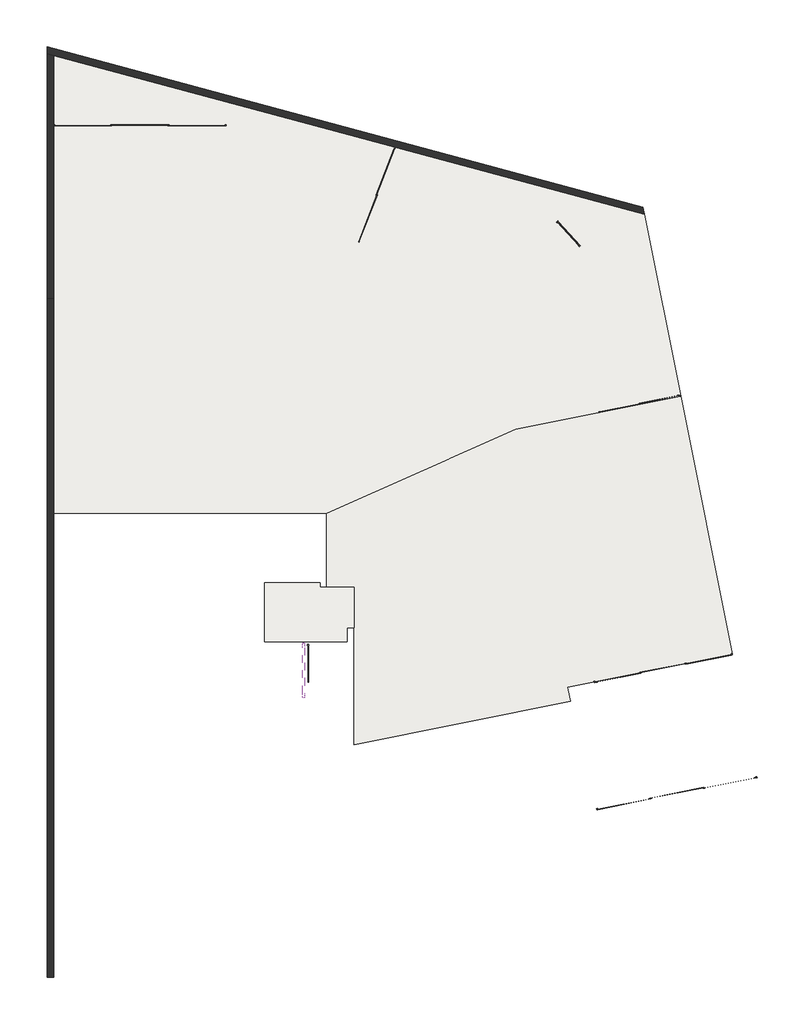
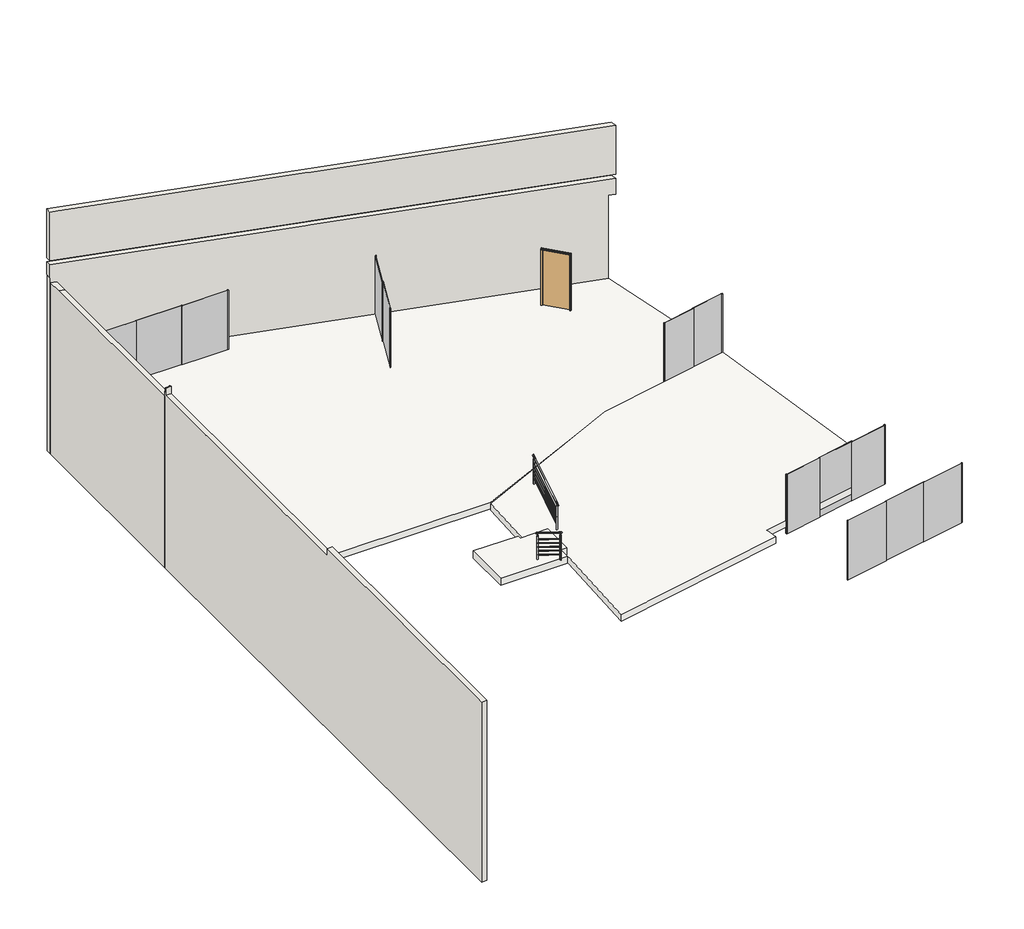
# One storey, incomplete: 5 furniture elements, 3 slabs, 3 walls, 2 railings, 1 door.
"""IFC4 building model written with IfcOpenShell, lengths in millimetres."""

from ifc_helpers import new_model, si_unit, frame, origin, place, context, project, spatial, polyline, outline, extrude, faceted_brep, transform, mapped, element, save
from components import door_b94a3739, furniture_f1b7d8eb, furniture_cfb692ec, furniture_4dd8e650, furniture_5b101463, furniture_70a1527a, railing_a08ae18a, railing_a6b679a9

model = new_model("IFC4")

# Units and contexts
model_context = context("Model", 3, world=origin())
ifc_project = project(units=[si_unit("LENGTHUNIT", "METRE", prefix="MILLI")], contexts=[model_context])

# Site, building, storey
site = spatial("IfcSite", under=ifc_project)
building = spatial("IfcBuilding", under=site)
storey = spatial("IfcBuildingStorey", under=building, Name="SÓTANO 1", Elevation=-3500.0)

# Door
placement = place(None, origin())
door_shape = door_b94a3739(model_context)
element("IfcDoor", 1, ObjectType="Puerta Metalica-lisa : PH2-Puerta Metalica lisa simple", at=placement, inside=storey, context=model_context, shape_type="MappedRepresentation", body=[
    mapped(door_shape, transform((49477.9969526, 40222.2993983, -3500.0), x_axis=(-0.6739713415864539, 0.7387574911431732, 0.0), y_axis=(-0.7387574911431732, -0.6739713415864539, 0.0), z_axis=(0.0, 0.0, 1.0))),
])

# Furniture
furniture_shape = furniture_f1b7d8eb(model_context)
element("IfcFurniture", 2, ObjectType="Puerta Closet corre 3 hojas : Puerta corrdiza 3 hojas PCLE-01", at=placement, inside=storey, context=model_context, shape_type="MappedRepresentation", body=[
    mapped(furniture_shape, transform((35474.5059119, 43346.4541486, -3500.0), x_axis=(1.0, 0.0, 0.0), y_axis=(0.0, 1.0, 0.0), z_axis=(0.0, 0.0, 1.0))),
])
furniture_2_shape = furniture_cfb692ec(model_context)
element("IfcFurniture", 3, ObjectType="Puerta Closet corre 3 hojas : Puerta corrdiza 3 hojas PCLE-04", at=placement, inside=storey, context=model_context, shape_type="MappedRepresentation", body=[
    mapped(furniture_2_shape, transform((51525.4137061, 27065.8247828, -4472.6920924), x_axis=(0.9805261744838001, 0.19638844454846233, 0.0), y_axis=(-0.19638844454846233, 0.9805261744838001, 0.0), z_axis=(0.0, 0.0, 1.0))),
])
furniture_3_shape = furniture_4dd8e650(model_context)
element("IfcFurniture", 4, ObjectType="Puerta Closet corre 3 hojas : Puerta corrdiza 3 hojas PCLE-05", at=placement, inside=storey, context=model_context, shape_type="MappedRepresentation", body=[
    mapped(furniture_3_shape, transform((51599.0261829, 23286.6871558, -4000.0), x_axis=(0.9805261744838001, 0.19638844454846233, 0.0), y_axis=(-0.19638844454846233, 0.9805261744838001, 0.0), z_axis=(0.0, 0.0, 1.0))),
])
furniture_4_shape = furniture_5b101463(model_context)
element("IfcFurniture", 5, ObjectType="Puerta Closet corre 2 hojas : Puerta corrdiza 2 hojas PCLE-02", at=placement, inside=storey, context=model_context, shape_type="MappedRepresentation", body=[
    mapped(furniture_4_shape, transform((44066.2505048, 41850.3583387, -3500.0), x_axis=(0.36197507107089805, 0.9321877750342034, 0.0), y_axis=(-0.9321877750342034, 0.36197507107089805, 0.0), z_axis=(0.0, 0.0, 1.0))),
])
furniture_5_shape = furniture_70a1527a(model_context)
element("IfcFurniture", 6, ObjectType="Puerta Closet corre 2 hojas : Puerta corrdiza 2 hojas PCLE-03", at=placement, inside=storey, context=model_context, shape_type="MappedRepresentation", body=[
    mapped(furniture_5_shape, transform((52142.5706861, 35186.7782889, -3500.0), x_axis=(0.98052617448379, 0.1963884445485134, 0.0), y_axis=(-0.1963884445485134, 0.98052617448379, 0.0), z_axis=(0.0, 0.0, 1.0))),
])

# Railings
railing_shape = railing_a08ae18a(model_context)
element("IfcRailing", 7, ObjectType="Barandal escalera", at=placement, inside=storey, context=model_context, shape_type="MappedRepresentation", body=[
    mapped(railing_shape, transform((0.0, 0.0, 0.0), x_axis=(1.0, 0.0, 0.0), y_axis=(0.0, 1.0, 0.0), z_axis=(0.0, 0.0, 1.0))),
])
railing_2_shape = railing_a6b679a9(model_context)
element("IfcRailing", 8, ObjectType="Barandal escalera", at=placement, inside=storey, context=model_context, shape_type="MappedRepresentation", body=[
    mapped(railing_2_shape, transform((0.0, 0.0, 0.0), x_axis=(1.0, 0.0, 0.0), y_axis=(0.0, 1.0, 0.0), z_axis=(0.0, 0.0, 1.0))),
])

# Slabs
element("IfcSlab", 9, ObjectType="Losa sótano", at=placement, inside=storey, context=model_context, shape_type="SweptSolid", body=[
    extrude(outline(polyline([(34183.8589874, 31918.9733508), (34183.8589874, 45520.6970613), (51731.7881803, 40802.0933929), (52813.3298443, 35402.1834706), (47910.6989719, 34420.2412478), (42279.5059119, 31918.9733508), (34183.8589874, 31918.9733508)])), frame((0.0, 0.0, -3750.0), z_axis=(0.0, 0.0, 1.0), x_axis=(1.0, 0.0, 0.0)), (0.0, 0.0, 1.0), 250.0),
])
element("IfcSlab", 10, ObjectType="Losa sótano en rampa", at=placement, inside=storey, context=model_context, shape_type="Brep", body=[
    faceted_brep([(54349.3007676, 27733.4038894, -4223.208373), (49446.6698952, 26751.4616666, -4223.208373), (49530.0749438, 26335.0378115, -4250.5162806), (43109.5059119, 25049.0695242, -4250.5162806), (43109.5059119, 29724.010184, -3955.7706944), (42279.5059119, 29724.010184, -3945.2896143), (42279.5059119, 31919.4931914, -3806.8688356), (47910.3701921, 34420.7046322, -3720.2779647), (52813.2279327, 35402.6922941, -3720.2779647), (54349.3007676, 27733.4038894, -3972.6920924), (52813.2279327, 35402.6922941, -3469.7616841), (47910.3701921, 34420.7046322, -3469.7616841), (42279.5059119, 31919.4931914, -3556.352555), (42279.5059119, 29724.010184, -3694.7733336), (43109.5059119, 29724.010184, -3705.2544137), (43109.5059119, 25049.0695242, -4000.0), (49530.0749438, 26335.0378115, -4000.0), (49446.6698952, 26751.4616666, -3972.6920924)], [[[0, 1, 2, 3, 4, 5, 6, 7, 8]], [[9, 10, 11, 12, 13, 14, 15, 16, 17]], [[0, 8, 10, 9]], [[3, 2, 16, 15]], [[4, 3, 15, 14]], [[5, 4, 14, 13]], [[6, 5, 13, 12]], [[7, 6, 12, 11]], [[8, 7, 11, 10]], [[1, 0, 9, 17]], [[2, 1, 17, 16]]]),
])
element("IfcSlab", 11, ObjectType="Suelo-losa 25cms+ceramica 2 HALL SOTANO 1", at=placement, inside=storey, context=model_context, shape_type="SweptSolid", body=[
    extrude(outline(polyline([(40444.5059119, 29855.2733508), (42089.5059119, 29855.2733508), (42089.5059119, 29724.010184), (43109.5059119, 29724.010184), (43109.5059119, 28524.010184), (42899.5059119, 28524.010184), (42899.5059119, 28111.0432167), (40444.5059119, 28111.0432167), (40444.5059119, 29855.2733508)])), frame((0.0, 0.0, -3780.0), z_axis=(0.0, 0.0, 1.0), x_axis=(1.0, 0.0, 0.0)), (0.0, 0.0, 1.0), 280.0),
])

# Walls
element("IfcWall", 12, ObjectType="Muro Contención - 20 cm", at=placement, inside=storey, context=model_context, shape_type="Brep", body=[
    faceted_brep([(34183.8589874, 18137.9058422, -7000.0), (34183.8589874, 22602.4464142, -7000.0), (34183.8589874, 22782.4464142, -7000.0), (34183.8589874, 38291.1390812, -7000.0), (34183.8589874, 38291.1390812, -350.0), (34183.8589874, 38291.1390812, 0.0), (34183.8589874, 38240.4026232, 0.0), (34183.8589874, 38240.4026232, -280.0), (34183.8589874, 27969.7432167, -280.0), (34183.8589874, 27969.7432167, 0.0), (34183.8589874, 18137.9058422, 0.0), (33983.8589874, 38291.1390812, -7000.0), (33983.8589874, 18137.9058422, -7000.0), (33983.8589874, 18137.9058422, 0.0), (33983.8589874, 27969.7432167, 0.0), (33983.8589874, 27969.7432167, -280.0), (33983.8589874, 38240.4026232, -280.0), (33983.8589874, 38240.4026232, 0.0), (33983.8589874, 38260.4026232, 0.0), (33983.8589874, 38260.4026232, -150.0), (33983.8589874, 38291.1390812, -150.0), (33983.8589874, 38291.1390812, -350.0), (34143.8589874, 38291.1390812, -150.0), (34143.8589874, 38291.1390812, 0.0), (34143.8589874, 38260.4026232, 0.0), (34143.8589874, 38260.4026232, -150.0)], [[[0, 1, 2, 3, 4, 5, 6, 7, 8, 9, 10]], [[11, 12, 13, 14, 15, 16, 17, 18, 19, 20, 21]], [[3, 2, 1, 0, 12, 11]], [[5, 4, 3, 11, 21, 20, 22, 23]], [[13, 10, 9, 14]], [[5, 23, 24, 18, 17, 6]], [[10, 13, 12, 0]], [[22, 25, 24, 23]], [[25, 22, 20, 19]], [[15, 8, 7, 16]], [[16, 7, 6, 17]], [[8, 15, 14, 9]], [[24, 25, 19, 18]]]),
])
element("IfcWall", 13, ObjectType="Muro Contención - 20 cm", at=placement, inside=storey, context=model_context, shape_type="Brep", body=[
    faceted_brep([(51687.9462691, 41020.9868296, -7000.0), (33983.8589874, 45781.5811011, -7000.0), (33983.8589874, 45781.5811011, -150.0), (33963.8589874, 45786.9590618, -150.0), (33963.8589874, 45786.9590618, 350.0), (51925.0873715, 40957.2200532, 350.0), (51925.0873715, 40957.2200532, -280.0), (51903.5290895, 40963.0170329, -280.0), (51687.9462691, 41020.9868296, -280.0), (33983.8589874, 45574.4766682, -7000.0), (34183.8589874, 45520.6970613, -7000.0), (51731.7881803, 40802.0933929, -7000.0), (51731.7881803, 40802.0933929, -280.0), (51968.9292828, 40738.3266166, -280.0), (51968.9292828, 40738.3266166, 350.0), (42264.5059119, 43347.8269863, 350.0), (42084.5059119, 43396.2286325, 350.0), (33963.8589874, 45579.8546289, 350.0), (33963.8589874, 45579.8546289, 0.0), (33963.8589874, 45579.8546289, -150.0), (33983.8589874, 45574.4766682, -150.0), (33983.8589874, 45574.4766682, -350.0)], [[[0, 1, 2, 3, 4, 5, 6, 7, 8]], [[9, 10, 11, 12, 13, 14, 15, 16, 17, 18, 19, 20, 21]], [[1, 0, 11, 10, 9]], [[3, 2, 20, 19]], [[1, 9, 21, 20, 2]], [[3, 19, 18, 17, 4]], [[11, 0, 8, 12]], [[13, 6, 5, 14]], [[13, 12, 8, 7, 6]], [[5, 4, 17, 16, 15, 14]]]),
    faceted_brep([(33963.8589874, 45786.9590618, 2400.0), (51925.0873715, 40957.2200532, 2400.0), (51925.0873715, 40957.2200532, 500.0), (33963.8589874, 45786.9590618, 500.0), (51968.9292828, 40738.3266166, 2400.0), (51774.9047444, 40790.4994336, 2400.0), (42264.5059119, 43347.8269863, 2400.0), (42084.5059119, 43396.2286325, 2400.0), (34143.8589874, 45531.4529827, 2400.0), (33963.8589874, 45579.8546289, 2400.0), (33963.8589874, 45579.8546289, 500.0), (42084.5059119, 43396.2286325, 500.0), (42264.5059119, 43347.8269863, 500.0), (51968.9292828, 40738.3266166, 500.0)], [[[0, 1, 2, 3]], [[4, 5, 6, 7, 8, 9, 10, 11, 12, 13]], [[1, 0, 9, 8, 7, 6, 5, 4]], [[9, 0, 3, 10]], [[1, 4, 13, 2]], [[3, 2, 13, 12, 11, 10]]]),
])
element("IfcWall", 14, ObjectType="Muro Contención - 20 cm", at=placement, inside=storey, context=model_context, shape_type="Brep", body=[
    faceted_brep([(34183.8589874, 38291.1390812, -7000.0), (34183.8589874, 45520.6970613, -7000.0), (34183.8589874, 45520.6970613, -350.0), (34183.8589874, 45002.6187555, -350.0), (34183.8589874, 38291.1390812, -350.0), (33983.8589874, 38291.1390812, -7000.0), (33983.8589874, 38291.1390812, -350.0), (33983.8589874, 45056.6521413, -350.0), (33983.8589874, 45574.4766682, -350.0), (33983.8589874, 45574.4766682, -7000.0)], [[[0, 1, 2, 3, 4]], [[5, 6, 7, 8, 9]], [[1, 0, 5, 9]], [[0, 4, 6, 5]], [[2, 1, 9, 8]], [[3, 2, 8, 7]], [[4, 3, 7, 6]]]),
])

save(model, "model.ifc")
